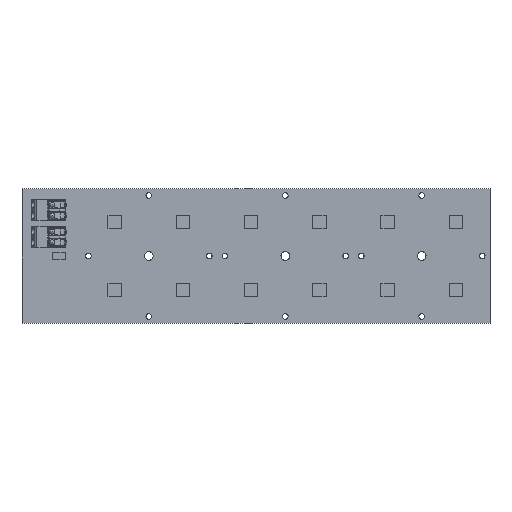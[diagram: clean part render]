
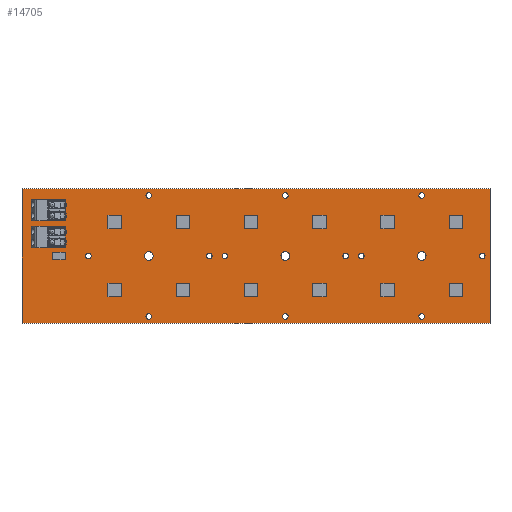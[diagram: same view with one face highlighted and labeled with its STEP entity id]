
A CAD part, top view. The second image highlights one B-rep face of the part: STEP entity #14705.
In plain terms, the highlighted planar face has unit normal (0, 0, 1).
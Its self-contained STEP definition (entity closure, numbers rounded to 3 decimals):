
#14036 = VERTEX_POINT('',#14037);
#14037 = CARTESIAN_POINT('',(0.,0.,0.));
#14043 = EDGE_CURVE('',#14036,#14044,#14046,.T.);
#14044 = VERTEX_POINT('',#14045);
#14045 = CARTESIAN_POINT('',(0.,50.,0.));
#14046 = LINE('',#14047,#14048);
#14047 = CARTESIAN_POINT('',(0.,0.,0.));
#14048 = VECTOR('',#14049,1.);
#14049 = DIRECTION('',(0.,1.,0.));
#14074 = EDGE_CURVE('',#14044,#14075,#14077,.T.);
#14075 = VERTEX_POINT('',#14076);
#14076 = CARTESIAN_POINT('',(174.2,50.,0.));
#14077 = LINE('',#14078,#14079);
#14078 = CARTESIAN_POINT('',(0.,50.,0.));
#14079 = VECTOR('',#14080,1.);
#14080 = DIRECTION('',(1.,0.,0.));
#14105 = EDGE_CURVE('',#14075,#14106,#14108,.T.);
#14106 = VERTEX_POINT('',#14107);
#14107 = CARTESIAN_POINT('',(174.2,0.,0.));
#14108 = LINE('',#14109,#14110);
#14109 = CARTESIAN_POINT('',(174.2,50.,0.));
#14110 = VECTOR('',#14111,1.);
#14111 = DIRECTION('',(0.,-1.,0.));
#14136 = EDGE_CURVE('',#14106,#14036,#14137,.T.);
#14137 = LINE('',#14138,#14139);
#14138 = CARTESIAN_POINT('',(174.2,0.,0.));
#14139 = VECTOR('',#14140,1.);
#14140 = DIRECTION('',(-1.,0.,0.));
#14160 = VERTEX_POINT('',#14161);
#14161 = CARTESIAN_POINT('',(48.25,2.5,0.));
#14167 = EDGE_CURVE('',#14160,#14160,#14168,.T.);
#14168 = CIRCLE('',#14169,1.05);
#14169 = AXIS2_PLACEMENT_3D('',#14170,#14171,#14172);
#14170 = CARTESIAN_POINT('',(47.2,2.5,0.));
#14171 = DIRECTION('',(0.,0.,1.));
#14172 = DIRECTION('',(1.,0.,0.));
#14193 = VERTEX_POINT('',#14194);
#14194 = CARTESIAN_POINT('',(99.6,25.,0.));
#14200 = EDGE_CURVE('',#14193,#14193,#14201,.T.);
#14201 = CIRCLE('',#14202,1.6);
#14202 = AXIS2_PLACEMENT_3D('',#14203,#14204,#14205);
#14203 = CARTESIAN_POINT('',(98.,25.,0.));
#14204 = DIRECTION('',(0.,0.,1.));
#14205 = DIRECTION('',(1.,0.,0.));
#14226 = VERTEX_POINT('',#14227);
#14227 = CARTESIAN_POINT('',(48.8,25.,0.));
#14233 = EDGE_CURVE('',#14226,#14226,#14234,.T.);
#14234 = CIRCLE('',#14235,1.6);
#14235 = AXIS2_PLACEMENT_3D('',#14236,#14237,#14238);
#14236 = CARTESIAN_POINT('',(47.2,25.,0.));
#14237 = DIRECTION('',(0.,0.,1.));
#14238 = DIRECTION('',(1.,0.,0.));
#14259 = VERTEX_POINT('',#14260);
#14260 = CARTESIAN_POINT('',(25.75,25.,0.));
#14266 = EDGE_CURVE('',#14259,#14259,#14267,.T.);
#14267 = CIRCLE('',#14268,1.05);
#14268 = AXIS2_PLACEMENT_3D('',#14269,#14270,#14271);
#14269 = CARTESIAN_POINT('',(24.7,25.,0.));
#14270 = DIRECTION('',(0.,0.,1.));
#14271 = DIRECTION('',(1.,0.,0.));
#14292 = VERTEX_POINT('',#14293);
#14293 = CARTESIAN_POINT('',(48.25,47.5,0.));
#14299 = EDGE_CURVE('',#14292,#14292,#14300,.T.);
#14300 = CIRCLE('',#14301,1.05);
#14301 = AXIS2_PLACEMENT_3D('',#14302,#14303,#14304);
#14302 = CARTESIAN_POINT('',(47.2,47.5,0.));
#14303 = DIRECTION('',(0.,0.,1.));
#14304 = DIRECTION('',(1.,0.,0.));
#14325 = VERTEX_POINT('',#14326);
#14326 = CARTESIAN_POINT('',(76.55,25.,0.));
#14332 = EDGE_CURVE('',#14325,#14325,#14333,.T.);
#14333 = CIRCLE('',#14334,1.05);
#14334 = AXIS2_PLACEMENT_3D('',#14335,#14336,#14337);
#14335 = CARTESIAN_POINT('',(75.5,25.,0.));
#14336 = DIRECTION('',(0.,0.,1.));
#14337 = DIRECTION('',(1.,0.,0.));
#14358 = VERTEX_POINT('',#14359);
#14359 = CARTESIAN_POINT('',(70.75,25.,0.));
#14365 = EDGE_CURVE('',#14358,#14358,#14366,.T.);
#14366 = CIRCLE('',#14367,1.05);
#14367 = AXIS2_PLACEMENT_3D('',#14368,#14369,#14370);
#14368 = CARTESIAN_POINT('',(69.7,25.,0.));
#14369 = DIRECTION('',(0.,0.,1.));
#14370 = DIRECTION('',(1.,0.,0.));
#14391 = VERTEX_POINT('',#14392);
#14392 = CARTESIAN_POINT('',(99.05,2.5,0.));
#14398 = EDGE_CURVE('',#14391,#14391,#14399,.T.);
#14399 = CIRCLE('',#14400,1.05);
#14400 = AXIS2_PLACEMENT_3D('',#14401,#14402,#14403);
#14401 = CARTESIAN_POINT('',(98.,2.5,0.));
#14402 = DIRECTION('',(0.,0.,1.));
#14403 = DIRECTION('',(1.,0.,0.));
#14424 = VERTEX_POINT('',#14425);
#14425 = CARTESIAN_POINT('',(121.55,25.,0.));
#14431 = EDGE_CURVE('',#14424,#14424,#14432,.T.);
#14432 = CIRCLE('',#14433,1.05);
#14433 = AXIS2_PLACEMENT_3D('',#14434,#14435,#14436);
#14434 = CARTESIAN_POINT('',(120.5,25.,0.));
#14435 = DIRECTION('',(0.,0.,1.));
#14436 = DIRECTION('',(1.,0.,0.));
#14457 = VERTEX_POINT('',#14458);
#14458 = CARTESIAN_POINT('',(149.85,2.5,0.));
#14464 = EDGE_CURVE('',#14457,#14457,#14465,.T.);
#14465 = CIRCLE('',#14466,1.05);
#14466 = AXIS2_PLACEMENT_3D('',#14467,#14468,#14469);
#14467 = CARTESIAN_POINT('',(148.8,2.5,0.));
#14468 = DIRECTION('',(0.,0.,1.));
#14469 = DIRECTION('',(1.,0.,0.));
#14490 = VERTEX_POINT('',#14491);
#14491 = CARTESIAN_POINT('',(150.4,25.,0.));
#14497 = EDGE_CURVE('',#14490,#14490,#14498,.T.);
#14498 = CIRCLE('',#14499,1.6);
#14499 = AXIS2_PLACEMENT_3D('',#14500,#14501,#14502);
#14500 = CARTESIAN_POINT('',(148.8,25.,0.));
#14501 = DIRECTION('',(0.,0.,1.));
#14502 = DIRECTION('',(1.,0.,0.));
#14523 = VERTEX_POINT('',#14524);
#14524 = CARTESIAN_POINT('',(127.35,25.,0.));
#14530 = EDGE_CURVE('',#14523,#14523,#14531,.T.);
#14531 = CIRCLE('',#14532,1.05);
#14532 = AXIS2_PLACEMENT_3D('',#14533,#14534,#14535);
#14533 = CARTESIAN_POINT('',(126.3,25.,0.));
#14534 = DIRECTION('',(0.,0.,1.));
#14535 = DIRECTION('',(1.,0.,0.));
#14556 = VERTEX_POINT('',#14557);
#14557 = CARTESIAN_POINT('',(99.05,47.5,0.));
#14563 = EDGE_CURVE('',#14556,#14556,#14564,.T.);
#14564 = CIRCLE('',#14565,1.05);
#14565 = AXIS2_PLACEMENT_3D('',#14566,#14567,#14568);
#14566 = CARTESIAN_POINT('',(98.,47.5,0.));
#14567 = DIRECTION('',(0.,0.,1.));
#14568 = DIRECTION('',(1.,0.,0.));
#14589 = VERTEX_POINT('',#14590);
#14590 = CARTESIAN_POINT('',(172.35,25.,0.));
#14596 = EDGE_CURVE('',#14589,#14589,#14597,.T.);
#14597 = CIRCLE('',#14598,1.05);
#14598 = AXIS2_PLACEMENT_3D('',#14599,#14600,#14601);
#14599 = CARTESIAN_POINT('',(171.3,25.,0.));
#14600 = DIRECTION('',(0.,0.,1.));
#14601 = DIRECTION('',(1.,0.,0.));
#14622 = VERTEX_POINT('',#14623);
#14623 = CARTESIAN_POINT('',(149.85,47.5,0.));
#14629 = EDGE_CURVE('',#14622,#14622,#14630,.T.);
#14630 = CIRCLE('',#14631,1.05);
#14631 = AXIS2_PLACEMENT_3D('',#14632,#14633,#14634);
#14632 = CARTESIAN_POINT('',(148.8,47.5,0.));
#14633 = DIRECTION('',(0.,0.,1.));
#14634 = DIRECTION('',(1.,0.,0.));
#14705 = ADVANCED_FACE('',(#14706,#14712,#14715,#14718,#14721,#14724,
    #14727,#14730,#14733,#14736,#14739,#14742,#14745,#14748,#14751,
    #14754),#14757,.T.);
#14706 = FACE_BOUND('',#14707,.F.);
#14707 = EDGE_LOOP('',(#14708,#14709,#14710,#14711));
#14708 = ORIENTED_EDGE('',*,*,#14043,.T.);
#14709 = ORIENTED_EDGE('',*,*,#14074,.T.);
#14710 = ORIENTED_EDGE('',*,*,#14105,.T.);
#14711 = ORIENTED_EDGE('',*,*,#14136,.T.);
#14712 = FACE_BOUND('',#14713,.T.);
#14713 = EDGE_LOOP('',(#14714));
#14714 = ORIENTED_EDGE('',*,*,#14167,.F.);
#14715 = FACE_BOUND('',#14716,.T.);
#14716 = EDGE_LOOP('',(#14717));
#14717 = ORIENTED_EDGE('',*,*,#14200,.F.);
#14718 = FACE_BOUND('',#14719,.T.);
#14719 = EDGE_LOOP('',(#14720));
#14720 = ORIENTED_EDGE('',*,*,#14233,.F.);
#14721 = FACE_BOUND('',#14722,.T.);
#14722 = EDGE_LOOP('',(#14723));
#14723 = ORIENTED_EDGE('',*,*,#14266,.F.);
#14724 = FACE_BOUND('',#14725,.T.);
#14725 = EDGE_LOOP('',(#14726));
#14726 = ORIENTED_EDGE('',*,*,#14299,.F.);
#14727 = FACE_BOUND('',#14728,.T.);
#14728 = EDGE_LOOP('',(#14729));
#14729 = ORIENTED_EDGE('',*,*,#14332,.F.);
#14730 = FACE_BOUND('',#14731,.T.);
#14731 = EDGE_LOOP('',(#14732));
#14732 = ORIENTED_EDGE('',*,*,#14365,.F.);
#14733 = FACE_BOUND('',#14734,.T.);
#14734 = EDGE_LOOP('',(#14735));
#14735 = ORIENTED_EDGE('',*,*,#14398,.F.);
#14736 = FACE_BOUND('',#14737,.T.);
#14737 = EDGE_LOOP('',(#14738));
#14738 = ORIENTED_EDGE('',*,*,#14431,.F.);
#14739 = FACE_BOUND('',#14740,.T.);
#14740 = EDGE_LOOP('',(#14741));
#14741 = ORIENTED_EDGE('',*,*,#14464,.F.);
#14742 = FACE_BOUND('',#14743,.T.);
#14743 = EDGE_LOOP('',(#14744));
#14744 = ORIENTED_EDGE('',*,*,#14497,.F.);
#14745 = FACE_BOUND('',#14746,.T.);
#14746 = EDGE_LOOP('',(#14747));
#14747 = ORIENTED_EDGE('',*,*,#14530,.F.);
#14748 = FACE_BOUND('',#14749,.T.);
#14749 = EDGE_LOOP('',(#14750));
#14750 = ORIENTED_EDGE('',*,*,#14563,.F.);
#14751 = FACE_BOUND('',#14752,.T.);
#14752 = EDGE_LOOP('',(#14753));
#14753 = ORIENTED_EDGE('',*,*,#14596,.F.);
#14754 = FACE_BOUND('',#14755,.T.);
#14755 = EDGE_LOOP('',(#14756));
#14756 = ORIENTED_EDGE('',*,*,#14629,.F.);
#14757 = PLANE('',#14758);
#14758 = AXIS2_PLACEMENT_3D('',#14759,#14760,#14761);
#14759 = CARTESIAN_POINT('',(0.,0.,0.));
#14760 = DIRECTION('',(0.,0.,1.));
#14761 = DIRECTION('',(1.,0.,0.));
